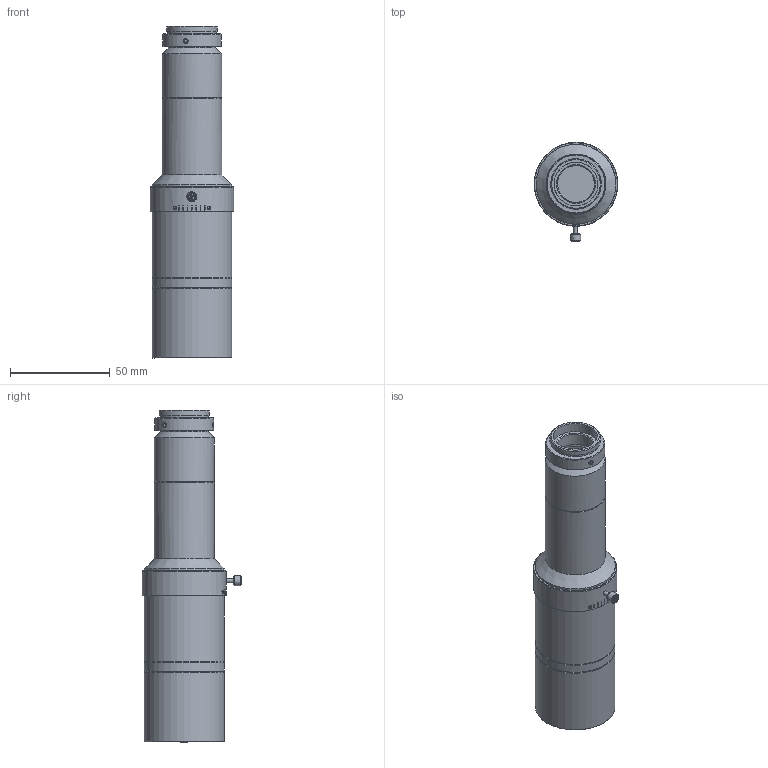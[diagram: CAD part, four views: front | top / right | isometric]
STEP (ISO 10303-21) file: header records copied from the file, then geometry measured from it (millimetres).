
FILE_DESCRIPTION(('STEP AP214'),'1');
FILE_NAME('TPC2-HMS110-VIE-FIL.stp','2024-09-17T01:53:42',(' '),(' '),'Spatial InterOp 3D',' ',' ');
FILE_SCHEMA(('AUTOMOTIVE_DESIGN { 1 0 10303 214 1 1 1 1 }'));
Length unit declared in the file: metre
Products named in the file (2): TPC2-HMS110-VIE-FIL; Component1
Assembly tree (1 placements, depth 2):
  TPC2-HMS110-VIE-FIL
    Component1
Bounding box: 42 x 49.76 x 166.37 mm (x, y, z)
Volume: 30904.7 mm3; surface area: 43639 mm2
Topology: 1 solids, 2 shells, 253 faces, 599 edges, 398 vertices
Faces by surface type: plane 85, cone 61, bspline 59, cylinder 44, sphere 3, torus 1
Full cylindrical faces by diameter (mm): 2 x2, 3.6 x1, 5 x1, 18.5 x1, 22 x1, 23.4 x1, 24 x2, 24.3 x1, 25 x1, 25.3 x1, 27 x2, 27.6 x1, 29.5 x1, 30 x2, 33.5 x1, 34 x1, 34.4 x1, 36.9 x2, 37 x1, 37.2 x1, 37.9 x1, 39 x1, 40 x4, 42 x1
Entity records: 16245 total; most frequent: CARTESIAN_POINT 6800, ORIENTED_EDGE 996, DIRECTION 808, STYLED_ITEM 752, PRESENTATION_STYLE_ASSIGNMENT 752, COLOUR_RGB 752, EDGE_CURVE 498, CURVE_STYLE 498
